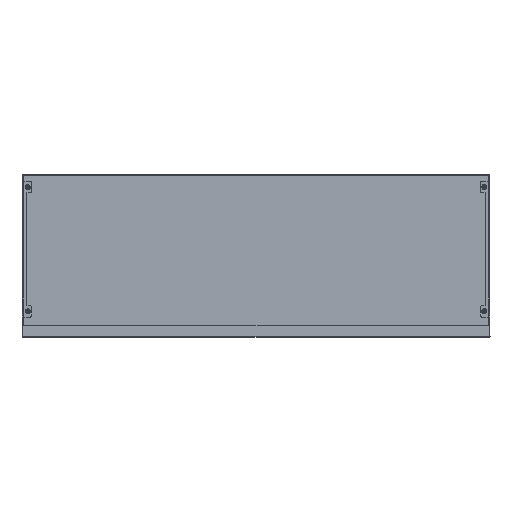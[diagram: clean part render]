
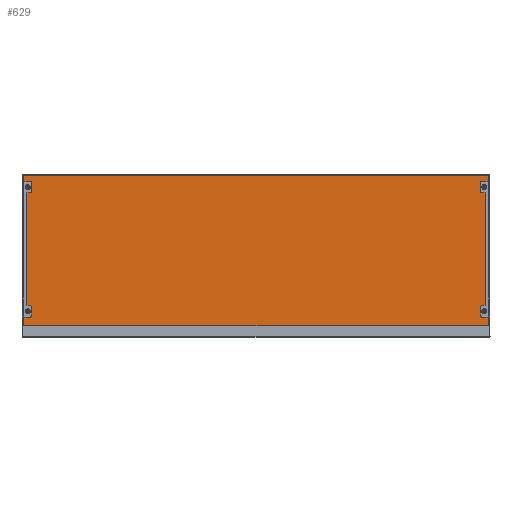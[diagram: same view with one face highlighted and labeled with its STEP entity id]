
A CAD part, front view. The second image highlights one B-rep face of the part: STEP entity #629.
In plain terms, the highlighted planar face has unit normal (0, -1, 0).
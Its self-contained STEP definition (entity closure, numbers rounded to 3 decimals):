
#175 = CIRCLE ( 'NONE', #6190, 0.6 ) ;
#629 = ADVANCED_FACE ( 'NONE', ( #7212 ), #1534, .F. ) ;
#684 = VERTEX_POINT ( 'NONE', #6512 ) ;
#781 = DIRECTION ( 'NONE',  ( 0., 0., 1. ) ) ;
#794 = AXIS2_PLACEMENT_3D ( 'NONE', #4752, #2159, #781 ) ;
#983 = CIRCLE ( 'NONE', #7780, 0.6 ) ;
#1013 = CIRCLE ( 'NONE', #2352, 0.6 ) ;
#1126 = CARTESIAN_POINT ( 'NONE',  ( -599.466, -1.4, -194.383 ) ) ;
#1412 = ORIENTED_EDGE ( 'NONE', *, *, #2235, .T. ) ;
#1534 = PLANE ( 'NONE',  #794 ) ;
#1626 = CARTESIAN_POINT ( 'NONE',  ( 599.6, -1.4, -193.798 ) ) ;
#1692 = EDGE_CURVE ( 'NONE', #3097, #7399, #2390, .T. ) ;
#1715 = VECTOR ( 'NONE', #7998, 1000. ) ;
#1854 = LINE ( 'NONE', #3121, #3252 ) ;
#1872 = EDGE_CURVE ( 'NONE', #2231, #3097, #4076, .T. ) ;
#1874 = CARTESIAN_POINT ( 'NONE',  ( -599.466, -1.4, 193.466 ) ) ;
#1933 = EDGE_CURVE ( 'NONE', #4533, #2971, #983, .T. ) ;
#2109 = DIRECTION ( 'NONE',  ( 0., 0., 1. ) ) ;
#2159 = DIRECTION ( 'NONE',  ( 0., 1., 0. ) ) ;
#2231 = VERTEX_POINT ( 'NONE', #6944 ) ;
#2235 = EDGE_CURVE ( 'NONE', #2971, #4818, #1854, .T. ) ;
#2245 = CARTESIAN_POINT ( 'NONE',  ( 599.6, -1.4, 192.881 ) ) ;
#2333 = CIRCLE ( 'NONE', #7660, 0.6 ) ;
#2352 = AXIS2_PLACEMENT_3D ( 'NONE', #1874, #4416, #3797 ) ;
#2390 = LINE ( 'NONE', #2427, #7646 ) ;
#2427 = CARTESIAN_POINT ( 'NONE',  ( 602.5, -1.4, -195.299 ) ) ;
#2615 = DIRECTION ( 'NONE',  ( -1., 0., 0. ) ) ;
#2904 = VECTOR ( 'NONE', #2109, 1000. ) ;
#2909 = LINE ( 'NONE', #8114, #1715 ) ;
#2971 = VERTEX_POINT ( 'NONE', #6767 ) ;
#3020 = VERTEX_POINT ( 'NONE', #7279 ) ;
#3073 = EDGE_CURVE ( 'NONE', #684, #3020, #175, .T. ) ;
#3097 = VERTEX_POINT ( 'NONE', #7643 ) ;
#3121 = CARTESIAN_POINT ( 'NONE',  ( 602.5, -1.4, 193.6 ) ) ;
#3211 = DIRECTION ( 'NONE',  ( 0.707, 0., 0.707 ) ) ;
#3252 = VECTOR ( 'NONE', #2615, 1000. ) ;
#3665 = DIRECTION ( 'NONE',  ( 0., 0., -1. ) ) ;
#3695 = CARTESIAN_POINT ( 'NONE',  ( -599.6, -1.4, 192.881 ) ) ;
#3742 = CARTESIAN_POINT ( 'NONE',  ( -202.117, -1.4, 202.117 ) ) ;
#3797 = DIRECTION ( 'NONE',  ( 0., 0., 1. ) ) ;
#4031 = DIRECTION ( 'NONE',  ( 0., 0., 1. ) ) ;
#4055 = CARTESIAN_POINT ( 'NONE',  ( -599.533, -1.4, -195.299 ) ) ;
#4076 = LINE ( 'NONE', #6004, #5786 ) ;
#4145 = ORIENTED_EDGE ( 'NONE', *, *, #5025, .F. ) ;
#4194 = ORIENTED_EDGE ( 'NONE', *, *, #3073, .F. ) ;
#4323 = DIRECTION ( 'NONE',  ( 0., -1., 0. ) ) ;
#4416 = DIRECTION ( 'NONE',  ( 0., 1., 0. ) ) ;
#4420 = DIRECTION ( 'NONE',  ( 0., 0., -1. ) ) ;
#4533 = VERTEX_POINT ( 'NONE', #2245 ) ;
#4698 = CARTESIAN_POINT ( 'NONE',  ( -599.6, -1.4, -196.799 ) ) ;
#4742 = LINE ( 'NONE', #4698, #2904 ) ;
#4747 = DIRECTION ( 'NONE',  ( 0., 1., 0. ) ) ;
#4752 = CARTESIAN_POINT ( 'NONE',  ( 602.5, -1.4, 196.5 ) ) ;
#4803 = EDGE_CURVE ( 'NONE', #7800, #2231, #2333, .T. ) ;
#4818 = VERTEX_POINT ( 'NONE', #6711 ) ;
#4882 = EDGE_CURVE ( 'NONE', #7399, #684, #5045, .T. ) ;
#5025 = EDGE_CURVE ( 'NONE', #3020, #5357, #4742, .T. ) ;
#5045 = LINE ( 'NONE', #3742, #5136 ) ;
#5136 = VECTOR ( 'NONE', #3211, 1000. ) ;
#5357 = VERTEX_POINT ( 'NONE', #3695 ) ;
#5392 = CARTESIAN_POINT ( 'NONE',  ( 599.466, -1.4, 193.466 ) ) ;
#5505 = ORIENTED_EDGE ( 'NONE', *, *, #1872, .F. ) ;
#5623 = ORIENTED_EDGE ( 'NONE', *, *, #4882, .F. ) ;
#5729 = DIRECTION ( 'NONE',  ( 0., -1., 0. ) ) ;
#5786 = VECTOR ( 'NONE', #6621, 1000. ) ;
#5812 = ORIENTED_EDGE ( 'NONE', *, *, #4803, .F. ) ;
#6004 = CARTESIAN_POINT ( 'NONE',  ( 202.117, -1.4, 202.117 ) ) ;
#6190 = AXIS2_PLACEMENT_3D ( 'NONE', #1126, #5729, #4420 ) ;
#6275 = EDGE_CURVE ( 'NONE', #4818, #5357, #1013, .T. ) ;
#6311 = DIRECTION ( 'NONE',  ( -1., 0., 0. ) ) ;
#6397 = ORIENTED_EDGE ( 'NONE', *, *, #7064, .F. ) ;
#6512 = CARTESIAN_POINT ( 'NONE',  ( -599.042, -1.4, -194.807 ) ) ;
#6621 = DIRECTION ( 'NONE',  ( 0.707, 0., -0.707 ) ) ;
#6711 = CARTESIAN_POINT ( 'NONE',  ( -598.881, -1.4, 193.6 ) ) ;
#6767 = CARTESIAN_POINT ( 'NONE',  ( 598.881, -1.4, 193.6 ) ) ;
#6944 = CARTESIAN_POINT ( 'NONE',  ( 599.042, -1.4, -194.807 ) ) ;
#7064 = EDGE_CURVE ( 'NONE', #4533, #7800, #2909, .T. ) ;
#7212 = FACE_OUTER_BOUND ( 'NONE', #7428, .T. ) ;
#7279 = CARTESIAN_POINT ( 'NONE',  ( -599.6, -1.4, -193.798 ) ) ;
#7399 = VERTEX_POINT ( 'NONE', #4055 ) ;
#7428 = EDGE_LOOP ( 'NONE', ( #6397, #7466, #1412, #7610, #4145, #4194, #5623, #8164, #5505, #5812 ) ) ;
#7466 = ORIENTED_EDGE ( 'NONE', *, *, #1933, .T. ) ;
#7610 = ORIENTED_EDGE ( 'NONE', *, *, #6275, .T. ) ;
#7643 = CARTESIAN_POINT ( 'NONE',  ( 599.533, -1.4, -195.299 ) ) ;
#7646 = VECTOR ( 'NONE', #6311, 1000. ) ;
#7660 = AXIS2_PLACEMENT_3D ( 'NONE', #8171, #4323, #3665 ) ;
#7780 = AXIS2_PLACEMENT_3D ( 'NONE', #5392, #4747, #4031 ) ;
#7800 = VERTEX_POINT ( 'NONE', #1626 ) ;
#7998 = DIRECTION ( 'NONE',  ( 0., 0., -1. ) ) ;
#8114 = CARTESIAN_POINT ( 'NONE',  ( 599.6, -1.4, 193.6 ) ) ;
#8164 = ORIENTED_EDGE ( 'NONE', *, *, #1692, .F. ) ;
#8171 = CARTESIAN_POINT ( 'NONE',  ( 599.466, -1.4, -194.383 ) ) ;
